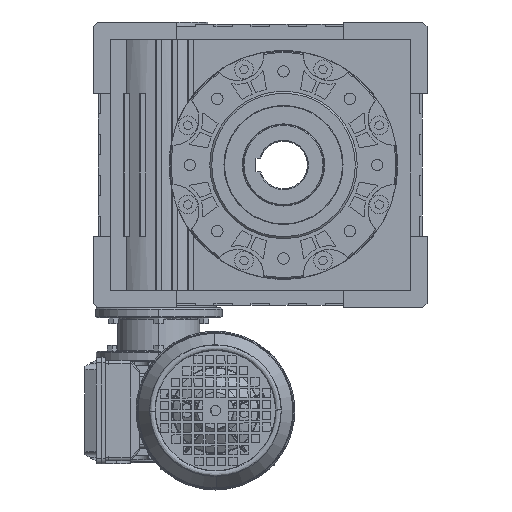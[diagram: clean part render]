
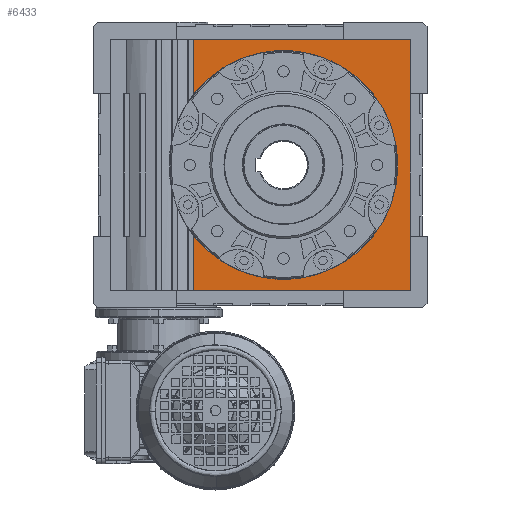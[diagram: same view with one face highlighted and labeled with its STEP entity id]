
A CAD part, left-side view. The second image highlights one B-rep face of the part: STEP entity #6433.
In plain terms, the highlighted planar face has unit normal (-1, 0, 0).
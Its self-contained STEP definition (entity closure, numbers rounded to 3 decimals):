
#6433 = ADVANCED_FACE ( 'NONE', ( #114215 ), #93283, .F. ) ;
#8856 = AXIS2_PLACEMENT_3D ( 'NONE', #129482, #129484, #129486 ) ;
#18505 = CARTESIAN_POINT ( 'NONE',  ( -32.5, -111.5, 111. ) ) ;
#18510 = DIRECTION ( 'NONE',  ( 0., 0., -1. ) ) ;
#19384 = LINE ( 'NONE', #18505, #19390 ) ;
#19390 = VECTOR ( 'NONE', #18510, 1000. ) ;
#38536 = LINE ( 'NONE', #42856, #38542 ) ;
#38542 = VECTOR ( 'NONE', #42861, 1000. ) ;
#38574 = LINE ( 'NONE', #42940, #38580 ) ;
#38580 = VECTOR ( 'NONE', #42944, 1000. ) ;
#42856 = CARTESIAN_POINT ( 'NONE',  ( -32.5, -111.5, 111. ) ) ;
#42861 = DIRECTION ( 'NONE',  ( 0., -1., 0. ) ) ;
#42940 = CARTESIAN_POINT ( 'NONE',  ( -32.5, -111.5, -111. ) ) ;
#42944 = DIRECTION ( 'NONE',  ( 0., 1., 0. ) ) ;
#43302 = EDGE_CURVE ( 'NONE', #45650, #45651, #126694, .T. ) ;
#44156 = AXIS2_PLACEMENT_3D ( 'NONE', #57618, #57619, #57620 ) ;
#45650 = VERTEX_POINT ( 'NONE', #133529 ) ;
#45651 = VERTEX_POINT ( 'NONE', #133539 ) ;
#47762 = VERTEX_POINT ( 'NONE', #135788 ) ;
#47765 = VERTEX_POINT ( 'NONE', #135785 ) ;
#47771 = VERTEX_POINT ( 'NONE', #135787 ) ;
#47801 = VERTEX_POINT ( 'NONE', #135798 ) ;
#54372 = EDGE_LOOP ( 'NONE', ( #90580, #90581, #90582, #90583, #90584, #90585, #90586 ) ) ;
#55351 = LINE ( 'NONE', #57599, #55357 ) ;
#55357 = VECTOR ( 'NONE', #57601, 1000. ) ;
#55360 = LINE ( 'NONE', #57614, #55369 ) ;
#55366 = CIRCLE ( 'NONE', #44156, 100.8 ) ;
#55369 = VECTOR ( 'NONE', #57615, 1000. ) ;
#57599 = CARTESIAN_POINT ( 'NONE',  ( -32.5, 78.917, 111. ) ) ;
#57601 = DIRECTION ( 'NONE',  ( 0., 0., 1. ) ) ;
#57614 = CARTESIAN_POINT ( 'NONE',  ( -32.5, 78.917, 111. ) ) ;
#57615 = DIRECTION ( 'NONE',  ( 0., 0., 1. ) ) ;
#57618 = CARTESIAN_POINT ( 'NONE',  ( -32.5, 0., 0. ) ) ;
#57619 = DIRECTION ( 'NONE',  ( -1., 0., 0. ) ) ;
#57620 = DIRECTION ( 'NONE',  ( 0., 1., 0. ) ) ;
#68565 = EDGE_CURVE ( 'NONE', #47762, #47765, #19384, .T. ) ;
#69426 = CARTESIAN_POINT ( 'NONE',  ( -32.5, 78.917, -62.712 ) ) ;
#79883 = EDGE_CURVE ( 'NONE', #47771, #47762, #38536, .T. ) ;
#79906 = EDGE_CURVE ( 'NONE', #47765, #47801, #38574, .T. ) ;
#82307 = EDGE_CURVE ( 'NONE', #47801, #94942, #55351, .T. ) ;
#82311 = EDGE_CURVE ( 'NONE', #45651, #47771, #55360, .T. ) ;
#82312 = EDGE_CURVE ( 'NONE', #94942, #45650, #55366, .T. ) ;
#90580 = ORIENTED_EDGE ( 'NONE', *, *, #79906, .F. ) ;
#90581 = ORIENTED_EDGE ( 'NONE', *, *, #68565, .F. ) ;
#90582 = ORIENTED_EDGE ( 'NONE', *, *, #79883, .F. ) ;
#90583 = ORIENTED_EDGE ( 'NONE', *, *, #82311, .F. ) ;
#90584 = ORIENTED_EDGE ( 'NONE', *, *, #43302, .F. ) ;
#90585 = ORIENTED_EDGE ( 'NONE', *, *, #82312, .F. ) ;
#90586 = ORIENTED_EDGE ( 'NONE', *, *, #82307, .F. ) ;
#93265 = DIRECTION ( 'NONE',  ( 0., 0., -1. ) ) ;
#93267 = DIRECTION ( 'NONE',  ( 1., 0., 0. ) ) ;
#93280 = CARTESIAN_POINT ( 'NONE',  ( -32.5, -111.5, 111. ) ) ;
#93283 = PLANE ( 'NONE',  #100282 ) ;
#94942 = VERTEX_POINT ( 'NONE', #69426 ) ;
#100282 = AXIS2_PLACEMENT_3D ( 'NONE', #93280, #93267, #93265 ) ;
#114215 = FACE_OUTER_BOUND ( 'NONE', #54372, .T. ) ;
#126694 = CIRCLE ( 'NONE', #8856, 100.8 ) ;
#129482 = CARTESIAN_POINT ( 'NONE',  ( -32.5, 0., 0. ) ) ;
#129484 = DIRECTION ( 'NONE',  ( -1., 0., 0. ) ) ;
#129486 = DIRECTION ( 'NONE',  ( 0., 1., 0. ) ) ;
#133529 = CARTESIAN_POINT ( 'NONE',  ( -32.5, -100.8, 0. ) ) ;
#133539 = CARTESIAN_POINT ( 'NONE',  ( -32.5, 78.917, 62.712 ) ) ;
#135785 = CARTESIAN_POINT ( 'NONE',  ( -32.5, -111.5, -111. ) ) ;
#135787 = CARTESIAN_POINT ( 'NONE',  ( -32.5, 78.917, 111. ) ) ;
#135788 = CARTESIAN_POINT ( 'NONE',  ( -32.5, -111.5, 111. ) ) ;
#135798 = CARTESIAN_POINT ( 'NONE',  ( -32.5, 78.917, -111. ) ) ;
